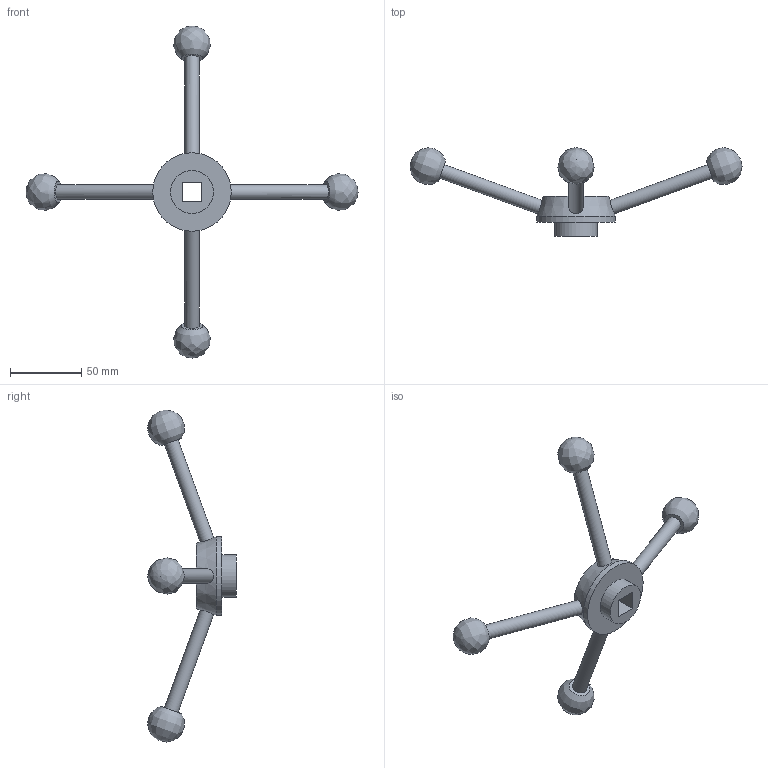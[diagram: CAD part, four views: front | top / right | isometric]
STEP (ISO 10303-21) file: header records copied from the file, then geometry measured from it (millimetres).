
FILE_DESCRIPTION( ( 'STEP AP203' ), '1' );
FILE_NAME( 'C:/Temp/Ganter_Step_05_03_2020/data/2_1/gn_213/gn_213_v/Turret lever GN 213-55-V14.stp', '2020-03-05T11:51:18', ( 'License CC BY-ND 4.0' ), ( 'CADENAS' ), ' ', 'PARTsolutions', ' ' );
FILE_SCHEMA( ( 'CONFIG_CONTROL_DESIGN' ) );
Length unit declared in the file: millimetre
Products named in the file (1): _Turret lever GN 213-55-V14
Bounding box: 232.62 x 62 x 232.62 mm (x, y, z)
Volume: 96944 mm3; surface area: 25991.4 mm2
Topology: 1 solids, 1 shells, 22 faces, 50 edges, 34 vertices
Faces by surface type: plane 11, cylinder 6, bspline 4, cone 1
Full cylindrical faces by diameter (mm): 10 x4, 30 x1, 55 x1
Entity records: 918 total; most frequent: CARTESIAN_POINT 477, DIRECTION 76, ORIENTED_EDGE 58, EDGE_LOOP 40, AXIS2_PLACEMENT_3D 32, VERTEX_POINT 29, EDGE_CURVE 29, FACE_OUTER_BOUND 28
